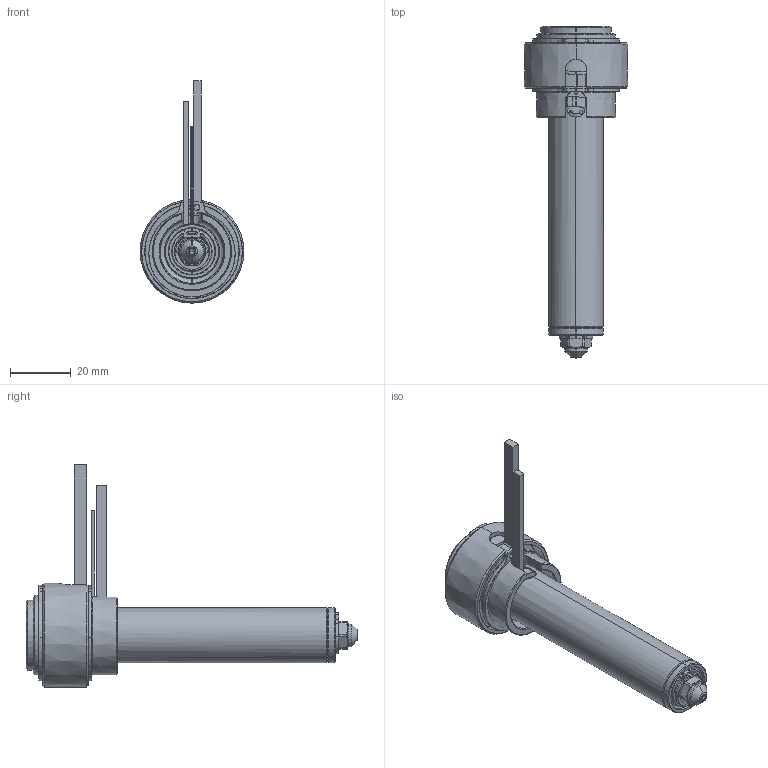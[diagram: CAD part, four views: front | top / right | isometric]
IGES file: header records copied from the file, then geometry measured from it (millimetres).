
Start section: SolidWorks IGES file using analytic representation for surfaces
Global section: file name: C:\Documents and Settings\ws-20\Desktop\TEM\UGER2503-M-A-1 [Øb-1.90 ØC-4.0].IGS; native system: SolidWorks 2012; preprocessor: SolidWorks 2012; author: ws-20; date: 120405.101928; units: millimetre
Bounding box: 34 x 108.9 x 72.9 mm (x, y, z)
Surface area: 24424.6 mm2 (no closed solid volume)
Topology: 0 solids, 0 shells, 192 faces, 2507 edges, 2505 vertices
Faces by surface type: revolution 121, bspline 71
